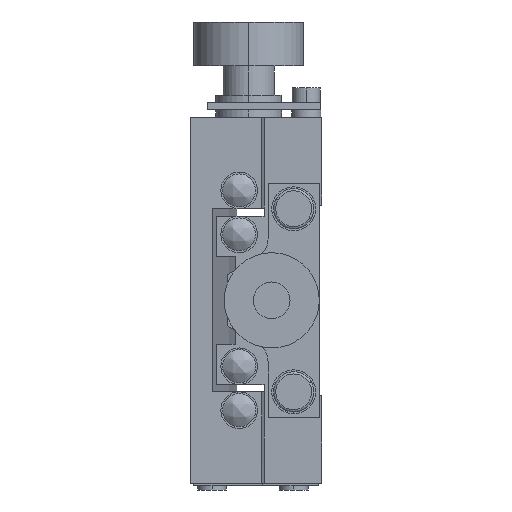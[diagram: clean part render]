
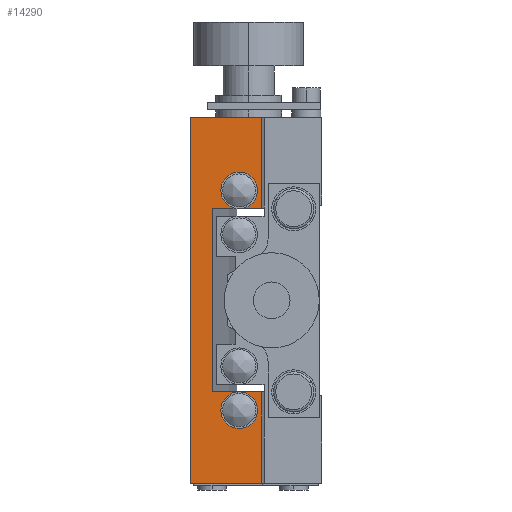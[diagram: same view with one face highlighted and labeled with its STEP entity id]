
A CAD part, left-side view. The second image highlights one B-rep face of the part: STEP entity #14290.
In plain terms, the highlighted planar face has unit normal (-1, 0, 0).
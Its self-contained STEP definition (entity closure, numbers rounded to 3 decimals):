
#78 = DIRECTION ( 'NONE',  ( 0., 1., 0. ) ) ;
#315 = EDGE_CURVE ( 'NONE', #6412, #824, #11122, .T. ) ;
#360 = DIRECTION ( 'NONE',  ( 0., 1., 0. ) ) ;
#481 = CARTESIAN_POINT ( 'NONE',  ( -25., 8.209, 12.5 ) ) ;
#495 = ORIENTED_EDGE ( 'NONE', *, *, #6754, .T. ) ;
#505 = EDGE_CURVE ( 'NONE', #1027, #5558, #604, .T. ) ;
#591 = ORIENTED_EDGE ( 'NONE', *, *, #16028, .F. ) ;
#604 = LINE ( 'NONE', #10846, #12109 ) ;
#684 = ORIENTED_EDGE ( 'NONE', *, *, #9275, .F. ) ;
#824 = VERTEX_POINT ( 'NONE', #14483 ) ;
#858 = DIRECTION ( 'NONE',  ( 0., 0., 1. ) ) ;
#920 = VECTOR ( 'NONE', #16088, 1000. ) ;
#1027 = VERTEX_POINT ( 'NONE', #3696 ) ;
#1214 = DIRECTION ( 'NONE',  ( 1., 0., 0. ) ) ;
#1260 = LINE ( 'NONE', #16407, #9592 ) ;
#1281 = CARTESIAN_POINT ( 'NONE',  ( -25., 8.209, 12.5 ) ) ;
#1444 = CARTESIAN_POINT ( 'NONE',  ( -25., 8.209, -12.5 ) ) ;
#1462 = CIRCLE ( 'NONE', #4975, 2.5 ) ;
#1613 = LINE ( 'NONE', #2161, #12720 ) ;
#1715 = VECTOR ( 'NONE', #13175, 1000. ) ;
#1938 = AXIS2_PLACEMENT_3D ( 'NONE', #12420, #16393, #9843 ) ;
#2111 = DIRECTION ( 'NONE',  ( 0., 0., -1. ) ) ;
#2161 = CARTESIAN_POINT ( 'NONE',  ( -25., 8.209, -12.5 ) ) ;
#2285 = AXIS2_PLACEMENT_3D ( 'NONE', #6319, #1214, #12838 ) ;
#2602 = ORIENTED_EDGE ( 'NONE', *, *, #7401, .F. ) ;
#3008 = VECTOR ( 'NONE', #10457, 1000. ) ;
#3419 = DIRECTION ( 'NONE',  ( 0., 0., 1. ) ) ;
#3479 = CARTESIAN_POINT ( 'NONE',  ( -25., 11.3, 15. ) ) ;
#3571 = PLANE ( 'NONE',  #2285 ) ;
#3696 = CARTESIAN_POINT ( 'NONE',  ( -25., 11.3, -12.5 ) ) ;
#3722 = DIRECTION ( 'NONE',  ( 0., 1., 0. ) ) ;
#4109 = VECTOR ( 'NONE', #78, 1000. ) ;
#4229 = ORIENTED_EDGE ( 'NONE', *, *, #15543, .F. ) ;
#4691 = DIRECTION ( 'NONE',  ( 0., -1., 0. ) ) ;
#4718 = DIRECTION ( 'NONE',  ( 0., 0., 1. ) ) ;
#4813 = DIRECTION ( 'NONE',  ( -1., 0., 0. ) ) ;
#4942 = CARTESIAN_POINT ( 'NONE',  ( -25., 8.209, 25. ) ) ;
#4975 = AXIS2_PLACEMENT_3D ( 'NONE', #3479, #16054, #3419 ) ;
#5053 = VERTEX_POINT ( 'NONE', #10370 ) ;
#5099 = LINE ( 'NONE', #5503, #1715 ) ;
#5305 = ORIENTED_EDGE ( 'NONE', *, *, #12642, .F. ) ;
#5503 = CARTESIAN_POINT ( 'NONE',  ( -25., 3., 25. ) ) ;
#5558 = VERTEX_POINT ( 'NONE', #1444 ) ;
#5897 = VERTEX_POINT ( 'NONE', #6411 ) ;
#6297 = DIRECTION ( 'NONE',  ( -1., 0., 0. ) ) ;
#6319 = CARTESIAN_POINT ( 'NONE',  ( -25., 8.209, -12.5 ) ) ;
#6379 = EDGE_CURVE ( 'NONE', #1027, #12491, #6858, .T. ) ;
#6411 = CARTESIAN_POINT ( 'NONE',  ( -25., 11.3, 12.5 ) ) ;
#6412 = VERTEX_POINT ( 'NONE', #14941 ) ;
#6510 = ORIENTED_EDGE ( 'NONE', *, *, #9419, .F. ) ;
#6754 = EDGE_CURVE ( 'NONE', #15136, #15630, #13219, .T. ) ;
#6858 = CIRCLE ( 'NONE', #10672, 2.5 ) ;
#7152 = VERTEX_POINT ( 'NONE', #10539 ) ;
#7157 = CARTESIAN_POINT ( 'NONE',  ( -25., 8.209, -12.5 ) ) ;
#7249 = CARTESIAN_POINT ( 'NONE',  ( -25., 18., -25. ) ) ;
#7401 = EDGE_CURVE ( 'NONE', #5053, #16137, #1260, .T. ) ;
#8028 = LINE ( 'NONE', #11385, #4109 ) ;
#8357 = EDGE_CURVE ( 'NONE', #5897, #7152, #1462, .T. ) ;
#8439 = CIRCLE ( 'NONE', #1938, 2.5 ) ;
#8499 = CARTESIAN_POINT ( 'NONE',  ( -25., 11.3, -15. ) ) ;
#8594 = CARTESIAN_POINT ( 'NONE',  ( -25., 8.209, 12.5 ) ) ;
#8682 = FACE_OUTER_BOUND ( 'NONE', #14606, .T. ) ;
#9275 = EDGE_CURVE ( 'NONE', #5897, #6412, #15790, .T. ) ;
#9419 = EDGE_CURVE ( 'NONE', #16137, #14912, #12945, .T. ) ;
#9592 = VECTOR ( 'NONE', #3722, 1000. ) ;
#9843 = DIRECTION ( 'NONE',  ( 0., 0., 1. ) ) ;
#10123 = CARTESIAN_POINT ( 'NONE',  ( -25., 11.3, 15. ) ) ;
#10370 = CARTESIAN_POINT ( 'NONE',  ( -25., 8.209, -25. ) ) ;
#10441 = ORIENTED_EDGE ( 'NONE', *, *, #6379, .F. ) ;
#10457 = DIRECTION ( 'NONE',  ( 0., 0., -1. ) ) ;
#10539 = CARTESIAN_POINT ( 'NONE',  ( -25., 11.3, 17.5 ) ) ;
#10672 = AXIS2_PLACEMENT_3D ( 'NONE', #8499, #4813, #11066 ) ;
#10842 = CIRCLE ( 'NONE', #16457, 2.5 ) ;
#10846 = CARTESIAN_POINT ( 'NONE',  ( -25., 8.209, -12.5 ) ) ;
#11066 = DIRECTION ( 'NONE',  ( 0., 0., 1. ) ) ;
#11122 = LINE ( 'NONE', #15565, #3008 ) ;
#11385 = CARTESIAN_POINT ( 'NONE',  ( -25., 8.209, 12.5 ) ) ;
#11522 = VECTOR ( 'NONE', #858, 1000. ) ;
#12015 = CARTESIAN_POINT ( 'NONE',  ( -25., 18., 25. ) ) ;
#12109 = VECTOR ( 'NONE', #4691, 1000. ) ;
#12226 = ORIENTED_EDGE ( 'NONE', *, *, #315, .F. ) ;
#12371 = VECTOR ( 'NONE', #360, 1000. ) ;
#12420 = CARTESIAN_POINT ( 'NONE',  ( -25., 11.3, -15. ) ) ;
#12491 = VERTEX_POINT ( 'NONE', #15765 ) ;
#12525 = EDGE_CURVE ( 'NONE', #15630, #14912, #5099, .T. ) ;
#12642 = EDGE_CURVE ( 'NONE', #5558, #5053, #1613, .T. ) ;
#12720 = VECTOR ( 'NONE', #2111, 1000. ) ;
#12838 = DIRECTION ( 'NONE',  ( 0., 0., -1. ) ) ;
#12945 = LINE ( 'NONE', #13419, #11522 ) ;
#13175 = DIRECTION ( 'NONE',  ( 0., 1., 0. ) ) ;
#13219 = LINE ( 'NONE', #8594, #15838 ) ;
#13288 = ORIENTED_EDGE ( 'NONE', *, *, #8357, .F. ) ;
#13419 = CARTESIAN_POINT ( 'NONE',  ( -25., 18., -25. ) ) ;
#13677 = ORIENTED_EDGE ( 'NONE', *, *, #12525, .T. ) ;
#14051 = LINE ( 'NONE', #7157, #920 ) ;
#14088 = DIRECTION ( 'NONE',  ( 0., 0., 1. ) ) ;
#14290 = ADVANCED_FACE ( 'NONE', ( #8682 ), #3571, .F. ) ;
#14483 = CARTESIAN_POINT ( 'NONE',  ( -25., 14.942, -12.5 ) ) ;
#14606 = EDGE_LOOP ( 'NONE', ( #2602, #5305, #14776, #591, #10441, #4229, #12226, #684, #15074, #13288, #14784, #495, #13677, #6510 ) ) ;
#14776 = ORIENTED_EDGE ( 'NONE', *, *, #505, .F. ) ;
#14784 = ORIENTED_EDGE ( 'NONE', *, *, #16227, .F. ) ;
#14912 = VERTEX_POINT ( 'NONE', #12015 ) ;
#14941 = CARTESIAN_POINT ( 'NONE',  ( -25., 14.942, 12.5 ) ) ;
#15074 = ORIENTED_EDGE ( 'NONE', *, *, #16181, .F. ) ;
#15136 = VERTEX_POINT ( 'NONE', #1281 ) ;
#15543 = EDGE_CURVE ( 'NONE', #824, #1027, #14051, .T. ) ;
#15565 = CARTESIAN_POINT ( 'NONE',  ( -25., 14.942, 25. ) ) ;
#15630 = VERTEX_POINT ( 'NONE', #4942 ) ;
#15765 = CARTESIAN_POINT ( 'NONE',  ( -25., 11.3, -17.5 ) ) ;
#15790 = LINE ( 'NONE', #481, #12371 ) ;
#15838 = VECTOR ( 'NONE', #4718, 1000. ) ;
#16028 = EDGE_CURVE ( 'NONE', #12491, #1027, #8439, .T. ) ;
#16054 = DIRECTION ( 'NONE',  ( -1., 0., 0. ) ) ;
#16088 = DIRECTION ( 'NONE',  ( 0., -1., 0. ) ) ;
#16137 = VERTEX_POINT ( 'NONE', #7249 ) ;
#16181 = EDGE_CURVE ( 'NONE', #7152, #5897, #10842, .T. ) ;
#16227 = EDGE_CURVE ( 'NONE', #15136, #5897, #8028, .T. ) ;
#16393 = DIRECTION ( 'NONE',  ( -1., 0., 0. ) ) ;
#16407 = CARTESIAN_POINT ( 'NONE',  ( -25., 3., -25. ) ) ;
#16457 = AXIS2_PLACEMENT_3D ( 'NONE', #10123, #6297, #14088 ) ;
